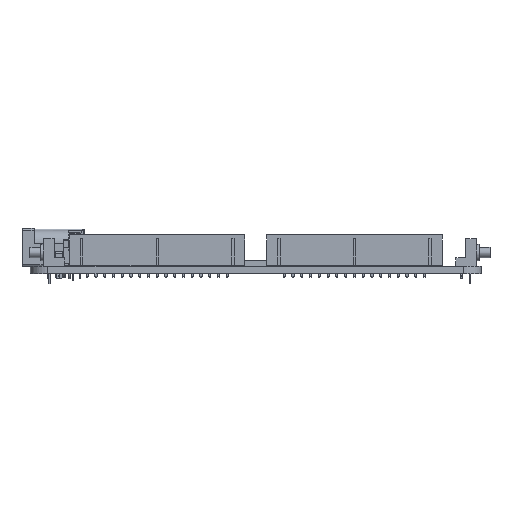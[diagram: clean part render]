
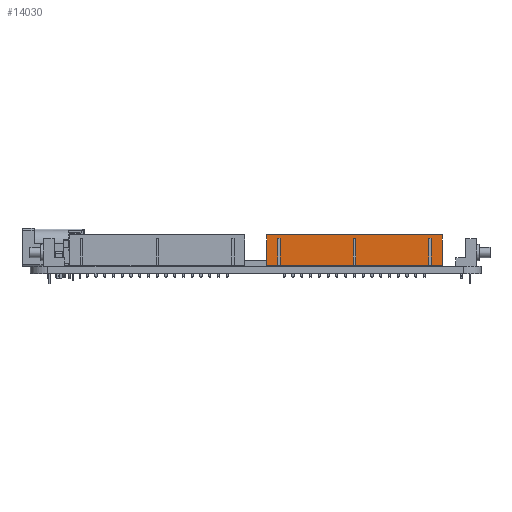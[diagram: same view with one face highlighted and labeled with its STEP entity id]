
A CAD part, left-side view. The second image highlights one B-rep face of the part: STEP entity #14030.
In plain terms, the highlighted planar face has unit normal (-1, 0, 0).
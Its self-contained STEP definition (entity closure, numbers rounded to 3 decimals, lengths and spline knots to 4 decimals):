
#5838=DIRECTION('',(0.,0.,-1.));
#5839=VECTOR('',#5838,0.3465);
#5840=CARTESIAN_POINT('',(-1.4682,-0.125,
0.4403));
#5841=LINE('',#5840,#5839);
#5966=DIRECTION('',(0.,0.,1.));
#5967=VECTOR('',#5966,0.3465);
#5968=CARTESIAN_POINT('',(-1.4682,-2.125,
0.0938));
#5969=LINE('',#5968,#5967);
#5998=DIRECTION('',(0.,1.,0.));
#5999=VECTOR('',#5998,0.8346);
#6000=CARTESIAN_POINT('',(-1.4682,-1.9734,
0.0938));
#6001=LINE('',#6000,#5999);
#6002=DIRECTION('',(0.,1.,0.));
#6003=VECTOR('',#6002,0.0276);
#6004=CARTESIAN_POINT('',(-1.4682,-1.1388,
0.4009));
#6005=LINE('',#6004,#6003);
#6006=DIRECTION('',(0.,1.,0.));
#6007=VECTOR('',#6006,0.8346);
#6008=CARTESIAN_POINT('',(-1.4682,-1.1112,
0.0938));
#6009=LINE('',#6008,#6007);
#6010=DIRECTION('',(0.,1.,0.));
#6011=VECTOR('',#6010,0.0276);
#6012=CARTESIAN_POINT('',(-1.4682,-0.2766,
0.4009));
#6013=LINE('',#6012,#6011);
#6014=DIRECTION('',(0.,1.,0.));
#6015=VECTOR('',#6014,0.124);
#6016=CARTESIAN_POINT('',(-1.4682,-0.249,
0.0938));
#6017=LINE('',#6016,#6015);
#6018=DIRECTION('',(0.,-1.,0.));
#6019=VECTOR('',#6018,2.);
#6020=CARTESIAN_POINT('',(-1.4682,-0.125,
0.4403));
#6021=LINE('',#6020,#6019);
#6022=DIRECTION('',(0.,1.,0.));
#6023=VECTOR('',#6022,0.124);
#6024=CARTESIAN_POINT('',(-1.4682,-2.125,
0.0938));
#6025=LINE('',#6024,#6023);
#6026=DIRECTION('',(0.,1.,0.));
#6027=VECTOR('',#6026,0.0276);
#6028=CARTESIAN_POINT('',(-1.4682,-2.001,
0.4009));
#6029=LINE('',#6028,#6027);
#6030=DIRECTION('',(0.,0.,-1.));
#6031=VECTOR('',#6030,0.3071);
#6032=CARTESIAN_POINT('',(-1.4682,-1.9734,
0.4009));
#6033=LINE('',#6032,#6031);
#6042=DIRECTION('',(0.,0.,-1.));
#6043=VECTOR('',#6042,0.3071);
#6044=CARTESIAN_POINT('',(-1.4682,-1.1388,
0.4009));
#6045=LINE('',#6044,#6043);
#6062=DIRECTION('',(0.,0.,1.));
#6063=VECTOR('',#6062,0.3071);
#6064=CARTESIAN_POINT('',(-1.4682,-1.1112,
0.0938));
#6065=LINE('',#6064,#6063);
#6082=DIRECTION('',(0.,0.,-1.));
#6083=VECTOR('',#6082,0.3071);
#6084=CARTESIAN_POINT('',(-1.4682,-0.2766,
0.4009));
#6085=LINE('',#6084,#6083);
#6102=DIRECTION('',(0.,0.,1.));
#6103=VECTOR('',#6102,0.3071);
#6104=CARTESIAN_POINT('',(-1.4682,-0.249,
0.0938));
#6105=LINE('',#6104,#6103);
#6122=DIRECTION('',(0.,0.,-1.));
#6123=VECTOR('',#6122,0.3071);
#6124=CARTESIAN_POINT('',(-1.4682,-2.001,
0.4009));
#6125=LINE('',#6124,#6123);
#11474=CARTESIAN_POINT('',(-1.4682,-0.125,
0.0938));
#11475=VERTEX_POINT('',#11474);
#11476=CARTESIAN_POINT('',(-1.4682,-0.249,
0.0938));
#11477=VERTEX_POINT('',#11476);
#11482=CARTESIAN_POINT('',(-1.4682,-0.2766,
0.0938));
#11483=VERTEX_POINT('',#11482);
#11484=CARTESIAN_POINT('',(-1.4682,-1.1112,
0.0938));
#11485=VERTEX_POINT('',#11484);
#11490=CARTESIAN_POINT('',(-1.4682,-1.1388,
0.0938));
#11491=VERTEX_POINT('',#11490);
#11492=CARTESIAN_POINT('',(-1.4682,-1.9734,
0.0938));
#11493=VERTEX_POINT('',#11492);
#11498=CARTESIAN_POINT('',(-1.4682,-2.001,
0.0938));
#11499=VERTEX_POINT('',#11498);
#11500=CARTESIAN_POINT('',(-1.4682,-2.125,
0.0938));
#11501=VERTEX_POINT('',#11500);
#12096=CARTESIAN_POINT('',(-1.4682,-0.125,
0.4403));
#12097=VERTEX_POINT('',#12096);
#12112=CARTESIAN_POINT('',(-1.4682,-2.125,
0.4403));
#12113=VERTEX_POINT('',#12112);
#12122=CARTESIAN_POINT('',(-1.4682,-1.1388,
0.4009));
#12123=VERTEX_POINT('',#12122);
#12124=CARTESIAN_POINT('',(-1.4682,-1.1112,
0.4009));
#12125=VERTEX_POINT('',#12124);
#12126=CARTESIAN_POINT('',(-1.4682,-0.2766,
0.4009));
#12127=VERTEX_POINT('',#12126);
#12128=CARTESIAN_POINT('',(-1.4682,-0.249,
0.4009));
#12129=VERTEX_POINT('',#12128);
#12130=CARTESIAN_POINT('',(-1.4682,-2.001,
0.4009));
#12131=VERTEX_POINT('',#12130);
#12132=CARTESIAN_POINT('',(-1.4682,-1.9734,
0.4009));
#12133=VERTEX_POINT('',#12132);
#13994=CARTESIAN_POINT('',(-1.4682,-1.125,
0.267));
#13995=DIRECTION('',(1.,0.,0.));
#13996=DIRECTION('',(0.,1.,0.));
#13997=AXIS2_PLACEMENT_3D('',#13994,#13995,#13996);
#13998=PLANE('',#13997);
#14000=ORIENTED_EDGE('',*,*,#13999,.T.);
#14002=ORIENTED_EDGE('',*,*,#14001,.F.);
#14004=ORIENTED_EDGE('',*,*,#14003,.T.);
#14006=ORIENTED_EDGE('',*,*,#14005,.F.);
#14008=ORIENTED_EDGE('',*,*,#14007,.T.);
#14010=ORIENTED_EDGE('',*,*,#14009,.F.);
#14012=ORIENTED_EDGE('',*,*,#14011,.T.);
#14014=ORIENTED_EDGE('',*,*,#14013,.F.);
#14016=ORIENTED_EDGE('',*,*,#14015,.T.);
#14017=ORIENTED_EDGE('',*,*,#13762,.F.);
#14018=ORIENTED_EDGE('',*,*,#13799,.T.);
#14019=ORIENTED_EDGE('',*,*,#13980,.F.);
#14021=ORIENTED_EDGE('',*,*,#14020,.T.);
#14023=ORIENTED_EDGE('',*,*,#14022,.F.);
#14025=ORIENTED_EDGE('',*,*,#14024,.T.);
#14027=ORIENTED_EDGE('',*,*,#14026,.T.);
#14028=EDGE_LOOP('',(#14000,#14002,#14004,#14006,#14008,#14010,#14012,#14014,
#14016,#14017,#14018,#14019,#14021,#14023,#14025,#14027));
#14029=FACE_OUTER_BOUND('',#14028,.F.);
#14030=ADVANCED_FACE('',(#14029),#13998,.F.);
#13762=EDGE_CURVE('',#12097,#11475,#5841,.T.);
#13799=EDGE_CURVE('',#12097,#12113,#6021,.T.);
#13980=EDGE_CURVE('',#11501,#12113,#5969,.T.);
#13999=EDGE_CURVE('',#11493,#11491,#6001,.T.);
#14001=EDGE_CURVE('',#12123,#11491,#6045,.T.);
#14003=EDGE_CURVE('',#12123,#12125,#6005,.T.);
#14005=EDGE_CURVE('',#11485,#12125,#6065,.T.);
#14007=EDGE_CURVE('',#11485,#11483,#6009,.T.);
#14009=EDGE_CURVE('',#12127,#11483,#6085,.T.);
#14011=EDGE_CURVE('',#12127,#12129,#6013,.T.);
#14013=EDGE_CURVE('',#11477,#12129,#6105,.T.);
#14015=EDGE_CURVE('',#11477,#11475,#6017,.T.);
#14020=EDGE_CURVE('',#11501,#11499,#6025,.T.);
#14022=EDGE_CURVE('',#12131,#11499,#6125,.T.);
#14024=EDGE_CURVE('',#12131,#12133,#6029,.T.);
#14026=EDGE_CURVE('',#12133,#11493,#6033,.T.);
